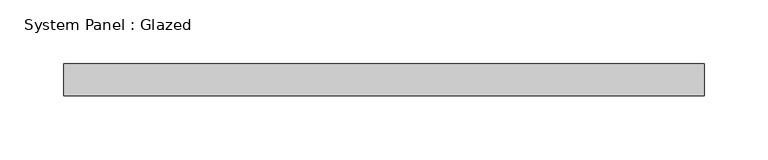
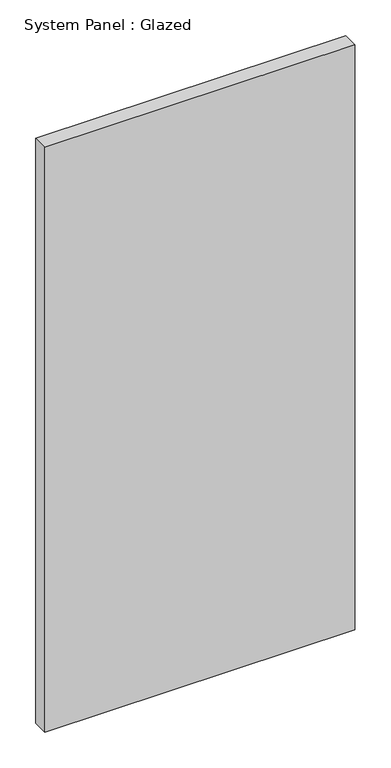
"""IFC4 building model written with IfcOpenShell, lengths in millimetres: plate geometry, System Panel : Glazed."""

import ifcopenshell
import ifcopenshell.guid

model = None  # the IFC model being written
_history = None  # IfcOwnerHistory: only IFC2X3 demands one
_inside = {}  # id of a spatial element -> (the spatial element, [elements in it])
_under = {}  # id of a project, library or spatial element -> (it, [spatial elements below it])
_declared = {}  # id of a project -> (the project, [libraries it declares])
_typed = {}  # id of a type object -> (the type object, [elements of that type])
_made_of = {}  # id of a material, layer set ... -> (it, [elements and type objects made of it])


def new_model(schema):
    """Start an empty IFC model of exactly this schema.

    Asked for "IFC4X3", IfcOpenShell would pick the latest addendum, in which some entities
    have other attributes; the version numbers below select the first issue.
    IFC2X3 requires an IfcOwnerHistory on every rooted entity: one is made here for all.
    """
    global model, _history
    if schema == "IFC4X3":
        model = ifcopenshell.file(schema_version=(4, 3, 0, 0))
    else:
        model = ifcopenshell.file(schema=schema)
    _inside.clear()
    _under.clear()
    _declared.clear()
    _typed.clear()
    _made_of.clear()
    _history = None
    if model.schema == "IFC2X3":
        org = make("IfcOrganization", Name="unknown")
        user = make(
            "IfcPersonAndOrganization",
            ThePerson=make("IfcPerson", FamilyName="unknown"),
            TheOrganization=org,
        )
        app = make(
            "IfcApplication",
            ApplicationDeveloper=org,
            Version="unknown",
            ApplicationFullName="unknown",
            ApplicationIdentifier="unknown",
        )
        _history = make(
            "IfcOwnerHistory",
            OwningUser=user,
            OwningApplication=app,
            ChangeAction="ADDED",
            CreationDate=0,
        )
    return model


def make(cls, **values):
    """One entity of the class cls with the attributes given. An attribute that is None is left unset."""
    return model.create_entity(
        cls, **{name: value for name, value in values.items() if value is not None}
    )


def rooted(cls, **values):
    """An entity with a GlobalId (a new one), such as an element, a storey or a relation."""
    return make(cls, GlobalId=ifcopenshell.guid.new(), OwnerHistory=_history, **values)


def si_unit(unit_type, name, prefix=None):
    """IfcSIUnit, for example si_unit("LENGTHUNIT", "METRE", prefix="MILLI")."""
    return make("IfcSIUnit", UnitType=unit_type, Prefix=prefix, Name=name)


def assignment(units):
    """IfcUnitAssignment: the units of a project."""
    return None if units is None else make("IfcUnitAssignment", Units=units)


def point(xyz):
    """IfcCartesianPoint."""
    return None if xyz is None else make("IfcCartesianPoint", Coordinates=xyz)


def direction(xyz):
    """IfcDirection."""
    return None if xyz is None else make("IfcDirection", DirectionRatios=xyz)


def frame(location, z_axis=None, x_axis=None):
    """IfcAxis2Placement3D, a coordinate frame: its origin and axes. An axis left out is left unset."""
    return make(
        "IfcAxis2Placement3D",
        Location=point(location),
        Axis=direction(z_axis),
        RefDirection=direction(x_axis),
    )


def origin():
    """The frame at (0, 0, 0) with its axes left unset."""
    return frame((0.0, 0.0, 0.0))


def origin_with_axes():
    """The frame at (0, 0, 0) with the z axis (0, 0, 1) and the x axis (1, 0, 0) written out."""
    return frame((0.0, 0.0, 0.0), z_axis=(0.0, 0.0, 1.0), x_axis=(1.0, 0.0, 0.0))


def place(relative_to, where):
    """IfcLocalPlacement: puts the frame where relative to a parent placement (None: the world)."""
    return make(
        "IfcLocalPlacement", PlacementRelTo=relative_to, RelativePlacement=where
    )


def context(
    kind, dimensions, precision=None, world=None, true_north=None, identifier=None
):
    """IfcGeometricRepresentationContext, for example the 3D "Model" context."""
    return make(
        "IfcGeometricRepresentationContext",
        ContextIdentifier=identifier,
        ContextType=kind,
        CoordinateSpaceDimension=dimensions,
        Precision=precision,
        WorldCoordinateSystem=world,
        TrueNorth=true_north,
    )


def project(units=None, contexts=None):
    """IfcProject with its units and contexts."""
    return rooted(
        "IfcProject",
        Name="project",
        RepresentationContexts=contexts,
        UnitsInContext=assignment(units),
    )


def spatial(cls, under=None, at=None, **own):
    """A site, building, storey or space (cls), placed at a placement, below another one or the project."""
    s = rooted(cls, ObjectPlacement=at, **own)
    if under is not None:
        _under.setdefault(under.id(), (under, []))[1].append(s)
    return s


def polyline(points):
    """IfcPolyline through the points."""
    return make("IfcPolyline", Points=[point(p) for p in points])


def outline(outer, holes=None, kind="AREA"):
    """IfcArbitraryClosedProfileDef: a profile drawn as a closed curve; with holes, ...WithVoids."""
    if holes is None:
        return make("IfcArbitraryClosedProfileDef", ProfileType=kind, OuterCurve=outer)
    return make(
        "IfcArbitraryProfileDefWithVoids",
        ProfileType=kind,
        OuterCurve=outer,
        InnerCurves=holes,
    )


def extrude(swept, where, along, depth):
    """IfcExtrudedAreaSolid: the profile swept, set in the frame where, extruded along a direction by depth."""
    return make(
        "IfcExtrudedAreaSolid",
        SweptArea=swept,
        Position=where,
        ExtrudedDirection=direction(along),
        Depth=depth,
    )


def shape(context_of_items, identifier, shape_type, items):
    """IfcShapeRepresentation: the items that make up one representation, for example the "Body"."""
    return make(
        "IfcShapeRepresentation",
        ContextOfItems=context_of_items,
        RepresentationIdentifier=identifier,
        RepresentationType=shape_type,
        Items=items,
    )


def source(mapping_origin, context_of_items, identifier, shape_type, items):
    """IfcRepresentationMap: a shape defined once, which mapped items show again and again."""
    return make(
        "IfcRepresentationMap",
        MappingOrigin=mapping_origin,
        MappedRepresentation=shape(context_of_items, identifier, shape_type, items),
    )


def transform(
    local_origin,
    x_axis=None,
    y_axis=None,
    z_axis=None,
    scale=None,
    scale2=None,
    scale3=None,
    uniform=True,
):
    """IfcCartesianTransformationOperator3D, or its non-uniform kind. x_axis, y_axis, z_axis: its Axis1, 2, 3."""
    if uniform:
        return make(
            "IfcCartesianTransformationOperator3D",
            Axis1=direction(x_axis),
            Axis2=direction(y_axis),
            LocalOrigin=point(local_origin),
            Scale=scale,
            Axis3=direction(z_axis),
        )
    return make(
        "IfcCartesianTransformationOperator3DnonUniform",
        Axis1=direction(x_axis),
        Axis2=direction(y_axis),
        LocalOrigin=point(local_origin),
        Scale=scale,
        Axis3=direction(z_axis),
        Scale2=scale2,
        Scale3=scale3,
    )


def mapped(mapping_source, mapping_target):
    """IfcMappedItem: shows the shape of a source again, moved by a transform."""
    return make(
        "IfcMappedItem", MappingSource=mapping_source, MappingTarget=mapping_target
    )


def made_of(thing, what):
    """Note that an element or type object is made of a material, layer set ...; save() writes the relation."""
    if what is not None:
        _made_of.setdefault(what.id(), (what, []))[1].append(thing)
    return thing


def element(
    cls,
    number,
    at=None,
    inside=None,
    cuts=None,
    type_object=None,
    material=None,
    context=None,
    identifier="Body",
    shape_type=None,
    held_by="IfcProductDefinitionShape",
    body=None,
    shapes=None,
    **own,
):
    """One element of the class cls, such as IfcWall. Its Tag is "e" and its number.

    at: its placement. inside: the storey or other place that contains it. cuts: it is an
    opening in that element (IfcRelVoidsElement). A single representation is given by context,
    identifier, shape_type and body (its items); several are given by shapes. held_by: the class
    of the entity that holds the representations. save() writes the other relations.
    """
    e = rooted(cls, Tag="e%d" % number, ObjectPlacement=at, **own)
    if body is not None:
        shapes = [shape(context, identifier, shape_type, body)]
    if shapes is not None:
        e.Representation = make(held_by, Representations=shapes)
    if inside is not None:
        _inside.setdefault(inside.id(), (inside, []))[1].append(e)
    if cuts is not None:
        rooted(
            "IfcRelVoidsElement", RelatingBuildingElement=cuts, RelatedOpeningElement=e
        )
    if type_object is not None:
        _typed.setdefault(type_object.id(), (type_object, []))[1].append(e)
    return made_of(e, material)


def aggregate(whole, parts):
    """IfcRelAggregates: a whole, such as a stair, and the parts it consists of."""
    return rooted("IfcRelAggregates", RelatingObject=whole, RelatedObjects=parts)


def save(model, path):
    """Write the relations noted so far, then the file.

    IfcRelAggregates (storeys below a building ...), IfcRelContainedInSpatialStructure (elements
    in a storey), IfcRelDefinesByType, IfcRelAssociatesMaterial and IfcRelDeclares: one each for
    every whole, place, type object, material and project.
    """
    for whole, parts in _under.values():
        aggregate(whole, parts)
    for where, things in _inside.values():
        rooted(
            "IfcRelContainedInSpatialStructure",
            RelatedElements=things,
            RelatingStructure=where,
        )
    for kind, things in _typed.values():
        rooted("IfcRelDefinesByType", RelatedObjects=things, RelatingType=kind)
    for what, things in _made_of.values():
        rooted("IfcRelAssociatesMaterial", RelatedObjects=things, RelatingMaterial=what)
    for by, libraries in _declared.values():
        rooted("IfcRelDeclares", RelatingContext=by, RelatedDefinitions=libraries)
    model.write(path)


def system_panel_glazed_8955cf43(model_context):
    return source(origin(), model_context, "Body", "SweptSolid", [
        extrude(outline(polyline([(250.8077636, 24.5), (-250.8077636, 24.5), (-250.8077636, 49.5), (250.8077636, 49.5), (250.8077636, 24.5)])), origin_with_axes(), (0.0, 0.0, 1.0), 1000.0),
    ])


if __name__ == "__main__":
    model = new_model("IFC4")
    model_context = context("Model", 3, world=origin())
    ifc_project = project(units=[si_unit("LENGTHUNIT", "METRE", prefix="MILLI")], contexts=[model_context])
    site = spatial("IfcSite", under=ifc_project)
    building = spatial("IfcBuilding", under=site)
    placement = place(None, origin())
    system_panel_glazed_shape = system_panel_glazed_8955cf43(model_context)
    element("IfcPlate", 1, ObjectType="System Panel : Glazed", at=placement, inside=building, context=model_context, shape_type="MappedRepresentation", body=[
        mapped(system_panel_glazed_shape, transform((0.0, 0.0, 0.0), x_axis=(1.0, 0.0, 0.0), y_axis=(0.0, 1.0, 0.0), z_axis=(0.0, 0.0, 1.0))),
    ])
    save(model, "model.ifc")
